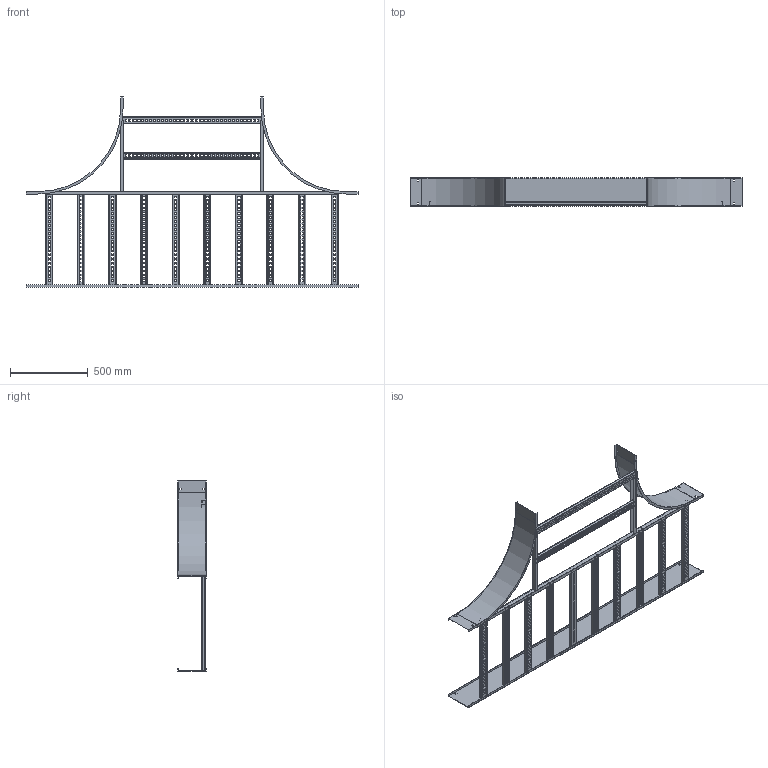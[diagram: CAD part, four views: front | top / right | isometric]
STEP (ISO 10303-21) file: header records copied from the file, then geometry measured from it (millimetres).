
FILE_DESCRIPTION((''),'2;1');
FILE_NAME('AUF72436LET24_ASM','2010-01-28T',('erouzier'),(''),'PRO/ENGINEER BY PARAMETRIC TECHNOLOGY CORPORATION, 2008510','PRO/ENGINEER BY PARAMETRIC TECHNOLOGY CORPORATION, 2008510','');
FILE_SCHEMA(('CONFIG_CONTROL_DESIGN'));
Length unit declared in the file: inch
Products named in the file (17): CDS001322-7-90-21-I; CDS013844-7-84; CDS000495_GEN_AF9; CDS002159L24-P_AF12; CDS002159L24-P_AF13; CDS002159L24-P_AF14; CDS002159L24-P_AF15; CDS002159L24-P; CDS002159L24-P_AF16; CDS002159L24-P_AF17; CDS002159L24-P_AF18; CDS002159L24-P_AF19; CDS000495_GEN_AF10; CDS000495_GEN_AF11; CDS002159L36-P_AF2; CDS002159L36-P_AF3; AUF72436LET24_ASM
Assembly tree (18 placements, depth 2):
  AUF72436LET24_ASM
    CDS001322-7-90-21-I  x2
    CDS013844-7-84
    CDS000495_GEN_AF9
    CDS002159L24-P_AF12
    CDS002159L24-P_AF13
    CDS002159L24-P_AF14
    CDS002159L24-P_AF15
    CDS002159L24-P  x2
    CDS002159L24-P_AF16
    CDS002159L24-P_AF17
    CDS002159L24-P_AF18
    CDS002159L24-P_AF19
    CDS000495_GEN_AF10
    CDS000495_GEN_AF11
    CDS002159L36-P_AF2
    CDS002159L36-P_AF3
Bounding box: 2139.19 x 183.9 x 1224.79 mm (x, y, z)
Volume: 3906956.3 mm3; surface area: 3898015.5 mm2
Topology: 18 solids, 18 shells, 2788 faces, 8256 edges, 5504 vertices
Faces by surface type: plane 1496, cylinder 1292
Entity records: 87251 total; most frequent: CARTESIAN_POINT 15163, ORIENTED_EDGE 15096, DIRECTION 15092, EDGE_CURVE 7548, VECTOR 5170, LINE 5170, VERTEX_POINT 5032, AXIS2_PLACEMENT_3D 4961
